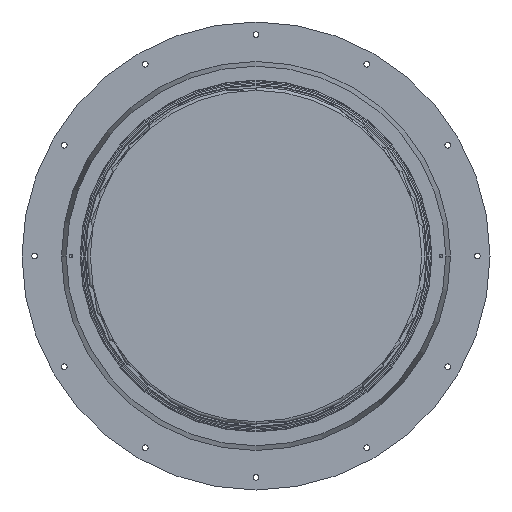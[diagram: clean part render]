
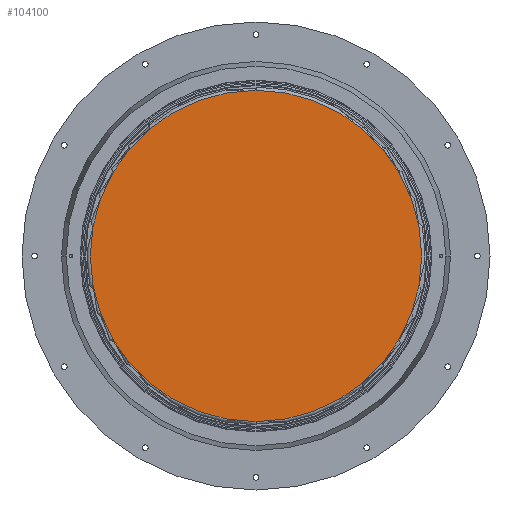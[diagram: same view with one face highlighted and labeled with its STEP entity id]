
A CAD part, front view. The second image highlights one B-rep face of the part: STEP entity #104100.
In plain terms, the highlighted planar face has unit normal (0, -1, 0).
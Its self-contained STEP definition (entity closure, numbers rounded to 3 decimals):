
#2792 = AXIS2_PLACEMENT_3D ( 'NONE', #118219, #58786, #128201 ) ;
#11776 = CARTESIAN_POINT ( 'NONE',  ( 0., -1390.1, 0. ) ) ;
#12767 = CIRCLE ( 'NONE', #106432, 524. ) ;
#21772 = DIRECTION ( 'NONE',  ( 0., 0., 1. ) ) ;
#26087 = EDGE_CURVE ( 'NONE', #103497, #27867, #12767, .T. ) ;
#27867 = VERTEX_POINT ( 'NONE', #125962 ) ;
#29125 = EDGE_LOOP ( 'NONE', ( #64675, #88589 ) ) ;
#35469 = DIRECTION ( 'NONE',  ( 0., -1., 0. ) ) ;
#50168 = AXIS2_PLACEMENT_3D ( 'NONE', #94750, #35469, #104743 ) ;
#58786 = DIRECTION ( 'NONE',  ( 0., 1., 0. ) ) ;
#60291 = CIRCLE ( 'NONE', #50168, 524. ) ;
#64675 = ORIENTED_EDGE ( 'NONE', *, *, #97756, .T. ) ;
#81061 = DIRECTION ( 'NONE',  ( 0., -1., 0. ) ) ;
#88589 = ORIENTED_EDGE ( 'NONE', *, *, #26087, .T. ) ;
#90867 = FACE_OUTER_BOUND ( 'NONE', #29125, .T. ) ;
#94750 = CARTESIAN_POINT ( 'NONE',  ( 0., -1390.1, 0. ) ) ;
#97756 = EDGE_CURVE ( 'NONE', #27867, #103497, #60291, .T. ) ;
#103497 = VERTEX_POINT ( 'NONE', #121466 ) ;
#104100 = ADVANCED_FACE ( 'NONE', ( #90867 ), #107749, .F. ) ;
#104743 = DIRECTION ( 'NONE',  ( 0., 0., 1. ) ) ;
#106432 = AXIS2_PLACEMENT_3D ( 'NONE', #11776, #81061, #21772 ) ;
#107749 = PLANE ( 'NONE',  #2792 ) ;
#118219 = CARTESIAN_POINT ( 'NONE',  ( 524., -1390.1, 500000. ) ) ;
#121466 = CARTESIAN_POINT ( 'NONE',  ( 0., -1390.1, -524. ) ) ;
#125962 = CARTESIAN_POINT ( 'NONE',  ( 0., -1390.1, 524. ) ) ;
#128201 = DIRECTION ( 'NONE',  ( -1., 0., 0. ) ) ;
